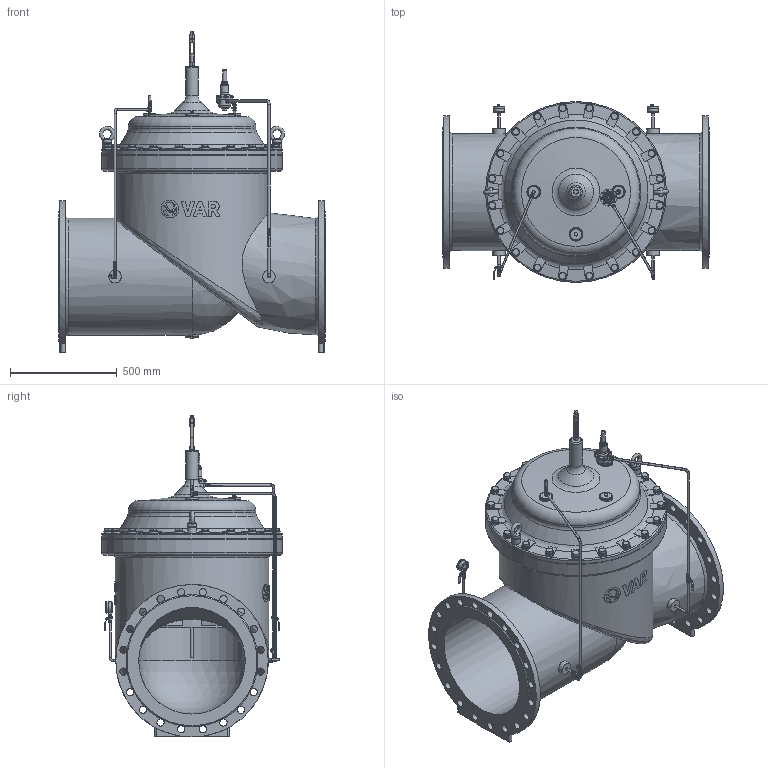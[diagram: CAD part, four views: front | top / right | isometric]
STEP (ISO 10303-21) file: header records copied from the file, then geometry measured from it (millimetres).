
FILE_DESCRIPTION(('STEP AP242'), '1');
FILE_NAME('PICO C200', '', ('UNSPECIFIED'), ('UNSPECIFIED'), 'C3D Converter', 'C3D Toolkit', '');
FILE_SCHEMA(('AP242_MANAGED_MODEL_BASED_3D_ENGINEERING_MIM_LF { 1 0 10303 442 1 1 4 }'));
Length unit declared in the file: millimetre
Products named in the file (26): М; ВР.752218.002
Assembly tree (85 placements, depth 3):
  (unnamed)
    (unnamed)
    (unnamed)
    (unnamed)
    (unnamed)
    (unnamed)
    (unnamed)
    (unnamed)
    М  x2
    (unnamed)
    (unnamed)  x4
    ВР.752218.002  x2
    (unnamed)  x6
    (unnamed)
    (unnamed)  x4
    (unnamed)
    (unnamed)
      (unnamed)
      (unnamed)
      (unnamed)  x8
      (unnamed)
    (unnamed)
    (unnamed)  x2
    (unnamed)  x2
    (unnamed)  x20
    (unnamed)  x20
Bounding box: 1250 x 848.5 x 1509.5 mm (x, y, z)
Volume: 152940789.6 mm3; surface area: 13012350.3 mm2
Topology: 91 solids, 93 shells, 3400 faces, 8483 edges, 5493 vertices
Faces by surface type: plane 1871, cylinder 725, cone 440, extrusion 159, torus 107, bspline 87, sphere 11
Full cylindrical faces by diameter (mm): 0.518 x2, 1.2 x1, 2.5 x2, 3 x8, 4 x25, 4.2 x4, 4.5 x4, 5 x2, 6 x8, 7 x8, 8 x5, 8.7 x1, 9 x16, 9.3 x6, 9.5 x2, 10 x4, 10.2 x4, 10.8 x2, 11 x18, 11.16 x4, 11.179 x6, 11.22 x4, 11.4 x2, 11.577 x2, 12 x10, 12.5 x3, 12.573 x15, 13.157 x2, 13.8 x4, 14.4 x5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
Entity records: 127372 total; most frequent: CARTESIAN_POINT 73827, ORIENTED_EDGE 8576, DIRECTION 7794, EDGE_CURVE 4288, VERTEX_POINT 3097, AXIS2_PLACEMENT_3D 2927, EDGE_LOOP 2639, FACE_BOUND 2047
